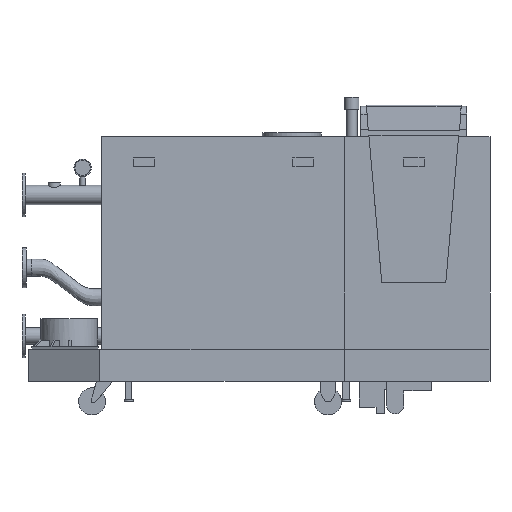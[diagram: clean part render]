
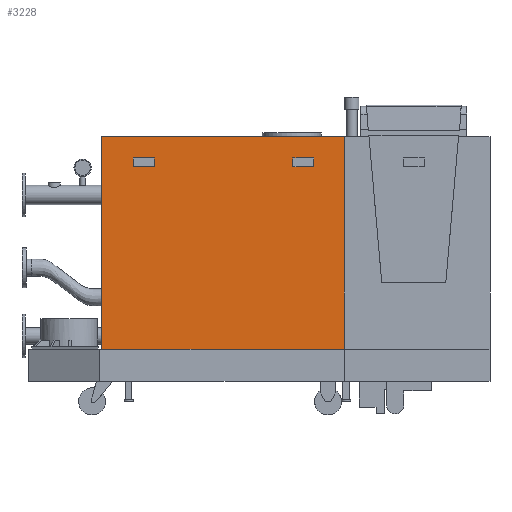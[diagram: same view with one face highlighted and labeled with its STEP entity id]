
A CAD part, front view. The second image highlights one B-rep face of the part: STEP entity #3228.
In plain terms, the highlighted planar face has unit normal (0, -1, 0).
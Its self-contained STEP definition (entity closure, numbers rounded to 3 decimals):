
#36 = EDGE_LOOP ( 'NONE', ( #2967, #2968, #2969, #2970 ) ) ;
#38 = EDGE_LOOP ( 'NONE', ( #2975, #2976, #2977, #2978 ) ) ;
#39 = EDGE_LOOP ( 'NONE', ( #2971, #2972, #2973, #2974 ) ) ;
#2560 = VERTEX_POINT ( 'NONE', #9645 ) ;
#2563 = VERTEX_POINT ( 'NONE', #9648 ) ;
#2565 = VERTEX_POINT ( 'NONE', #9650 ) ;
#2570 = VERTEX_POINT ( 'NONE', #9655 ) ;
#2576 = VERTEX_POINT ( 'NONE', #9661 ) ;
#2577 = VERTEX_POINT ( 'NONE', #9662 ) ;
#2578 = VERTEX_POINT ( 'NONE', #9663 ) ;
#2579 = VERTEX_POINT ( 'NONE', #9664 ) ;
#2581 = VERTEX_POINT ( 'NONE', #9666 ) ;
#2582 = VERTEX_POINT ( 'NONE', #9667 ) ;
#2583 = VERTEX_POINT ( 'NONE', #9668 ) ;
#2584 = VERTEX_POINT ( 'NONE', #9669 ) ;
#2967 = ORIENTED_EDGE ( 'NONE', *, *, #3150, .F. ) ;
#2968 = ORIENTED_EDGE ( 'NONE', *, *, #3165, .T. ) ;
#2969 = ORIENTED_EDGE ( 'NONE', *, *, #3166, .T. ) ;
#2970 = ORIENTED_EDGE ( 'NONE', *, *, #3167, .F. ) ;
#2971 = ORIENTED_EDGE ( 'NONE', *, *, #3168, .T. ) ;
#2972 = ORIENTED_EDGE ( 'NONE', *, *, #3169, .T. ) ;
#2973 = ORIENTED_EDGE ( 'NONE', *, *, #3170, .T. ) ;
#2974 = ORIENTED_EDGE ( 'NONE', *, *, #3171, .T. ) ;
#2975 = ORIENTED_EDGE ( 'NONE', *, *, #3172, .F. ) ;
#2976 = ORIENTED_EDGE ( 'NONE', *, *, #3173, .F. ) ;
#2977 = ORIENTED_EDGE ( 'NONE', *, *, #3174, .F. ) ;
#2978 = ORIENTED_EDGE ( 'NONE', *, *, #3175, .F. ) ;
#3150 = EDGE_CURVE ( 'NONE', #2560, #2563, #10709, .T. ) ;
#3165 = EDGE_CURVE ( 'NONE', #2560, #2576, #10762, .T. ) ;
#3166 = EDGE_CURVE ( 'NONE', #2576, #2578, #10739, .T. ) ;
#3167 = EDGE_CURVE ( 'NONE', #2563, #2578, #10768, .T. ) ;
#3168 = EDGE_CURVE ( 'NONE', #2570, #2579, #10751, .T. ) ;
#3169 = EDGE_CURVE ( 'NONE', #2579, #2581, #10763, .T. ) ;
#3170 = EDGE_CURVE ( 'NONE', #2581, #2582, #10777, .T. ) ;
#3171 = EDGE_CURVE ( 'NONE', #2582, #2570, #10780, .T. ) ;
#3172 = EDGE_CURVE ( 'NONE', #2565, #2583, #10783, .T. ) ;
#3173 = EDGE_CURVE ( 'NONE', #2577, #2565, #10769, .T. ) ;
#3174 = EDGE_CURVE ( 'NONE', #2584, #2577, #10789, .T. ) ;
#3175 = EDGE_CURVE ( 'NONE', #2583, #2584, #10792, .T. ) ;
#3228 = ADVANCED_FACE ( 'NONE', ( #13345, #13339, #13347 ), #13348, .F. ) ;
#9298 = VECTOR ( 'NONE', #10719, 1000. ) ;
#9311 = VECTOR ( 'NONE', #10767, 1000. ) ;
#9314 = VECTOR ( 'NONE', #10765, 1000. ) ;
#9315 = VECTOR ( 'NONE', #10774, 1000. ) ;
#9316 = VECTOR ( 'NONE', #10771, 1000. ) ;
#9317 = VECTOR ( 'NONE', #10776, 1000. ) ;
#9318 = VECTOR ( 'NONE', #10788, 1000. ) ;
#9319 = VECTOR ( 'NONE', #10779, 1000. ) ;
#9320 = VECTOR ( 'NONE', #10782, 1000. ) ;
#9321 = VECTOR ( 'NONE', #10786, 1000. ) ;
#9323 = VECTOR ( 'NONE', #10791, 1000. ) ;
#9324 = VECTOR ( 'NONE', #10794, 1000. ) ;
#9645 = CARTESIAN_POINT ( 'NONE',  ( 432.5, 0., -500. ) ) ;
#9648 = CARTESIAN_POINT ( 'NONE',  ( -689., 0., -500. ) ) ;
#9650 = CARTESIAN_POINT ( 'NONE',  ( -446.5, 0., 343. ) ) ;
#9655 = CARTESIAN_POINT ( 'NONE',  ( 291.5, 0., 343. ) ) ;
#9661 = CARTESIAN_POINT ( 'NONE',  ( 432.5, 0., 483. ) ) ;
#9662 = CARTESIAN_POINT ( 'NONE',  ( -544., 0., 343. ) ) ;
#9663 = CARTESIAN_POINT ( 'NONE',  ( -689., 0., 483. ) ) ;
#9664 = CARTESIAN_POINT ( 'NONE',  ( 194.5, 0., 343. ) ) ;
#9666 = CARTESIAN_POINT ( 'NONE',  ( 194.5, 0., 384. ) ) ;
#9667 = CARTESIAN_POINT ( 'NONE',  ( 291.5, 0., 384. ) ) ;
#9668 = CARTESIAN_POINT ( 'NONE',  ( -446.5, 0., 384. ) ) ;
#9669 = CARTESIAN_POINT ( 'NONE',  ( -544., 0., 384. ) ) ;
#10709 = LINE ( 'NONE', #10718, #9298 ) ;
#10718 = CARTESIAN_POINT ( 'NONE',  ( -689., 0., -500. ) ) ;
#10719 = DIRECTION ( 'NONE',  ( -1., 0., 0. ) ) ;
#10739 = LINE ( 'NONE', #10766, #9311 ) ;
#10751 = LINE ( 'NONE', #10772, #9315 ) ;
#10762 = LINE ( 'NONE', #10764, #9314 ) ;
#10763 = LINE ( 'NONE', #10775, #9317 ) ;
#10764 = CARTESIAN_POINT ( 'NONE',  ( 432.5, 0., 483. ) ) ;
#10765 = DIRECTION ( 'NONE',  ( 0., 0., 1. ) ) ;
#10766 = CARTESIAN_POINT ( 'NONE',  ( 126., 0., 483. ) ) ;
#10767 = DIRECTION ( 'NONE',  ( -1., 0., 0. ) ) ;
#10768 = LINE ( 'NONE', #10770, #9316 ) ;
#10769 = LINE ( 'NONE', #10787, #9318 ) ;
#10770 = CARTESIAN_POINT ( 'NONE',  ( -689., 0., -500. ) ) ;
#10771 = DIRECTION ( 'NONE',  ( 0., 0., 1. ) ) ;
#10772 = CARTESIAN_POINT ( 'NONE',  ( 194.5, 0., 343. ) ) ;
#10774 = DIRECTION ( 'NONE',  ( -1., 0., 0. ) ) ;
#10775 = CARTESIAN_POINT ( 'NONE',  ( 194.5, 0., 384. ) ) ;
#10776 = DIRECTION ( 'NONE',  ( 0., 0., 1. ) ) ;
#10777 = LINE ( 'NONE', #10778, #9319 ) ;
#10778 = CARTESIAN_POINT ( 'NONE',  ( 291.5, 0., 384. ) ) ;
#10779 = DIRECTION ( 'NONE',  ( 1., 0., 0. ) ) ;
#10780 = LINE ( 'NONE', #10781, #9320 ) ;
#10781 = CARTESIAN_POINT ( 'NONE',  ( 291.5, 0., 343. ) ) ;
#10782 = DIRECTION ( 'NONE',  ( 0., 0., -1. ) ) ;
#10783 = LINE ( 'NONE', #10785, #9321 ) ;
#10785 = CARTESIAN_POINT ( 'NONE',  ( -446.5, 0., 384. ) ) ;
#10786 = DIRECTION ( 'NONE',  ( 0., 0., 1. ) ) ;
#10787 = CARTESIAN_POINT ( 'NONE',  ( -446.5, 0., 343. ) ) ;
#10788 = DIRECTION ( 'NONE',  ( 1., 0., 0. ) ) ;
#10789 = LINE ( 'NONE', #10790, #9323 ) ;
#10790 = CARTESIAN_POINT ( 'NONE',  ( -544., 0., 343. ) ) ;
#10791 = DIRECTION ( 'NONE',  ( 0., 0., -1. ) ) ;
#10792 = LINE ( 'NONE', #10793, #9324 ) ;
#10793 = CARTESIAN_POINT ( 'NONE',  ( -544., 0., 384. ) ) ;
#10794 = DIRECTION ( 'NONE',  ( -1., 0., 0. ) ) ;
#11194 = AXIS2_PLACEMENT_3D ( 'NONE', #13344, #13342, #13350 ) ;
#13339 = FACE_BOUND ( 'NONE', #39, .T. ) ;
#13342 = DIRECTION ( 'NONE',  ( 0., 1., 0. ) ) ;
#13344 = CARTESIAN_POINT ( 'NONE',  ( 126., 0., -500. ) ) ;
#13345 = FACE_OUTER_BOUND ( 'NONE', #36, .T. ) ;
#13347 = FACE_BOUND ( 'NONE', #38, .T. ) ;
#13348 = PLANE ( 'NONE',  #11194 ) ;
#13350 = DIRECTION ( 'NONE',  ( -1., 0., 0. ) ) ;
